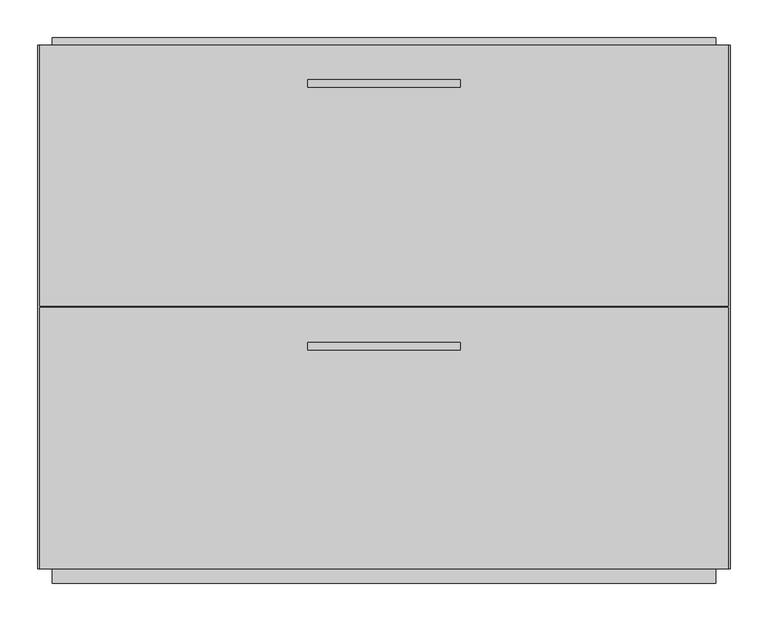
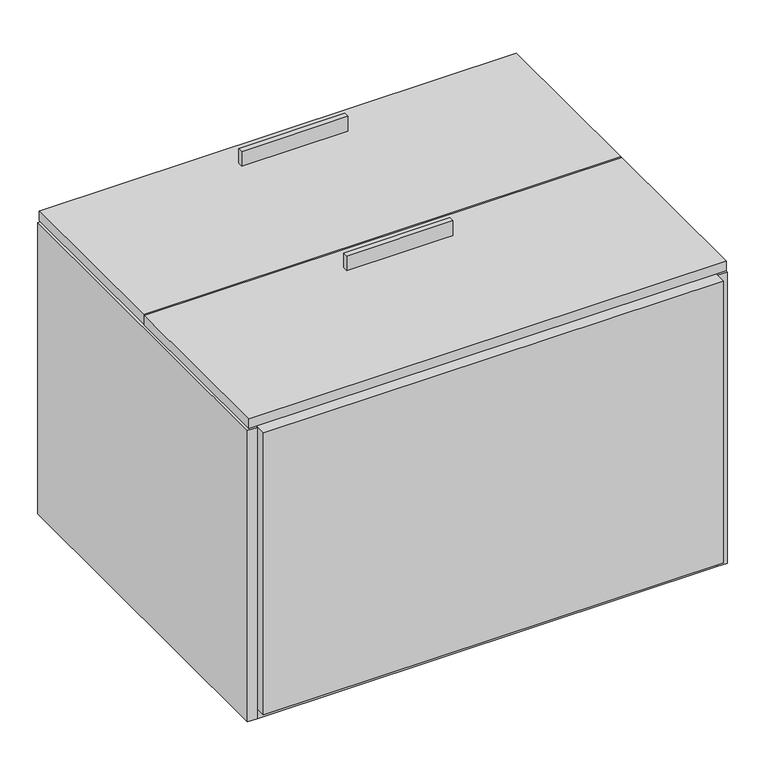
"""IFC4 building model written with IfcOpenShell, lengths in millimetres: proxy geometry, BASYS^24 DEEP PED_LEGAL LAT-FF PED."""

from ifc_helpers import new_model, si_unit, frame, origin, place, context, project, spatial, polyline, outline, extrude, source, transform, mapped, element, save


def generic_models_fad06939(model_context):
    return source(origin(), model_context, "Body", "SweptSolid", [
        extrude(outline(polyline([(-50.8192057, 312.8683988), (151.1807943, 312.8683988), (151.1807943, 302.8683988), (-50.8192057, 302.8683988), (-50.8192057, 312.8683988)])), frame((0.0, 0.0, 304.8), z_axis=(0.0, 0.0, 1.0), x_axis=(1.0, 0.0, 0.0)), (0.0, 0.0, 1.0), 30.0),
        extrude(outline(polyline([(-387.9692057, 339.6183988), (-387.9692057, 368.1933988), (488.3307943, 368.1933988), (488.3307943, 339.6183988), (-387.9692057, 339.6183988)])), frame((0.0, 0.0, -285.75), z_axis=(0.0, 0.0, 1.0), x_axis=(1.0, 0.0, 0.0)), (0.0, 0.0, 1.0), 568.325),
        extrude(outline(polyline([(-387.9692057, 358.6683988), (-387.9692057, -333.4816012), (-407.0192057, -333.4816012), (-407.0192057, 358.6683988), (-387.9692057, 358.6683988)])), frame((0.0, 0.0, -304.8), z_axis=(0.0, 0.0, 1.0), x_axis=(1.0, 0.0, 0.0)), (0.0, 0.0, 1.0), 587.375),
        extrude(outline(polyline([(504.9995443, 358.6683988), (504.9995443, 13.7840238), (-404.6379557, 13.7840238), (-404.6379557, 358.6683988), (504.9995443, 358.6683988)])), frame((0.0, 0.0, 285.75), z_axis=(0.0, 0.0, 1.0), x_axis=(1.0, 0.0, 0.0)), (0.0, 0.0, 1.0), 19.05),
        extrude(outline(polyline([(-404.6379557, 11.4027738), (504.9995443, 11.4027738), (504.9995443, -333.4816012), (-404.6379557, -333.4816012), (-404.6379557, 11.4027738)])), frame((0.0, 0.0, 285.75), z_axis=(0.0, 0.0, 1.0), x_axis=(1.0, 0.0, 0.0)), (0.0, 0.0, 1.0), 19.05),
        extrude(outline(polyline([(488.3307943, -314.4316012), (488.3307943, -352.5316012), (-387.9692057, -352.5316012), (-387.9692057, -314.4316012), (488.3307943, -314.4316012)])), frame((0.0, 0.0, -285.75), z_axis=(0.0, 0.0, 1.0), x_axis=(1.0, 0.0, 0.0)), (0.0, 0.0, 1.0), 568.325),
        extrude(outline(polyline([(488.3307943, -333.4816012), (488.3307943, 358.6683988), (507.3807943, 358.6683988), (507.3807943, -333.4816012), (488.3307943, -333.4816012)])), frame((0.0, 0.0, -304.8), z_axis=(0.0, 0.0, 1.0), x_axis=(1.0, 0.0, 0.0)), (0.0, 0.0, 1.0), 587.375),
        extrude(outline(polyline([(488.3307943, 358.6683988), (488.3307943, -333.4816012), (-387.9692057, -333.4816012), (-387.9692057, 358.6683988), (488.3307943, 358.6683988)])), frame((0.0, 0.0, -304.8), z_axis=(0.0, 0.0, 1.0), x_axis=(1.0, 0.0, 0.0)), (0.0, 0.0, 1.0), 19.05),
        extrude(outline(polyline([(-50.8192057, -34.3972262), (151.1807943, -34.3972262), (151.1807943, -44.3972262), (-50.8192057, -44.3972262), (-50.8192057, -34.3972262)])), frame((0.0, 0.0, 304.8), z_axis=(0.0, 0.0, 1.0), x_axis=(1.0, 0.0, 0.0)), (0.0, 0.0, 1.0), 30.0),
    ])


if __name__ == "__main__":
    model = new_model("IFC4")
    model_context = context("Model", 3, world=origin())
    ifc_project = project(units=[si_unit("LENGTHUNIT", "METRE", prefix="MILLI")], contexts=[model_context])
    site = spatial("IfcSite", under=ifc_project)
    building = spatial("IfcBuilding", under=site)
    placement = place(None, origin())
    generic_models_shape = generic_models_fad06939(model_context)
    element("IfcBuildingElementProxy", 1, Name="BASYS^24 DEEP PED_LEGAL LAT-FF PED", ObjectType="BASYS^24 DEEP PED_LEGAL LAT-FF PED", at=placement, inside=building, context=model_context, shape_type="MappedRepresentation", body=[
        mapped(generic_models_shape, transform((0.0, 0.0, 0.0), x_axis=(1.0, 0.0, 0.0), y_axis=(0.0, 1.0, 0.0), z_axis=(0.0, 0.0, 1.0))),
    ])
    save(model, "model.ifc")
